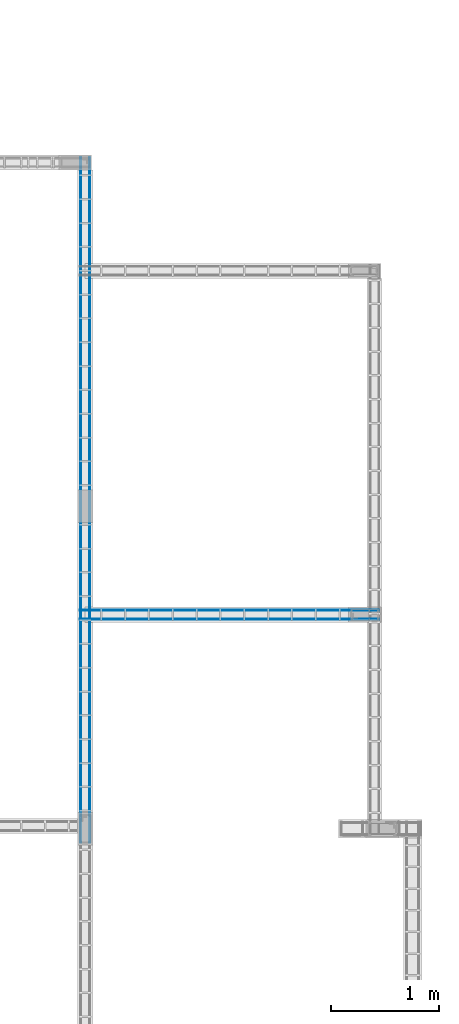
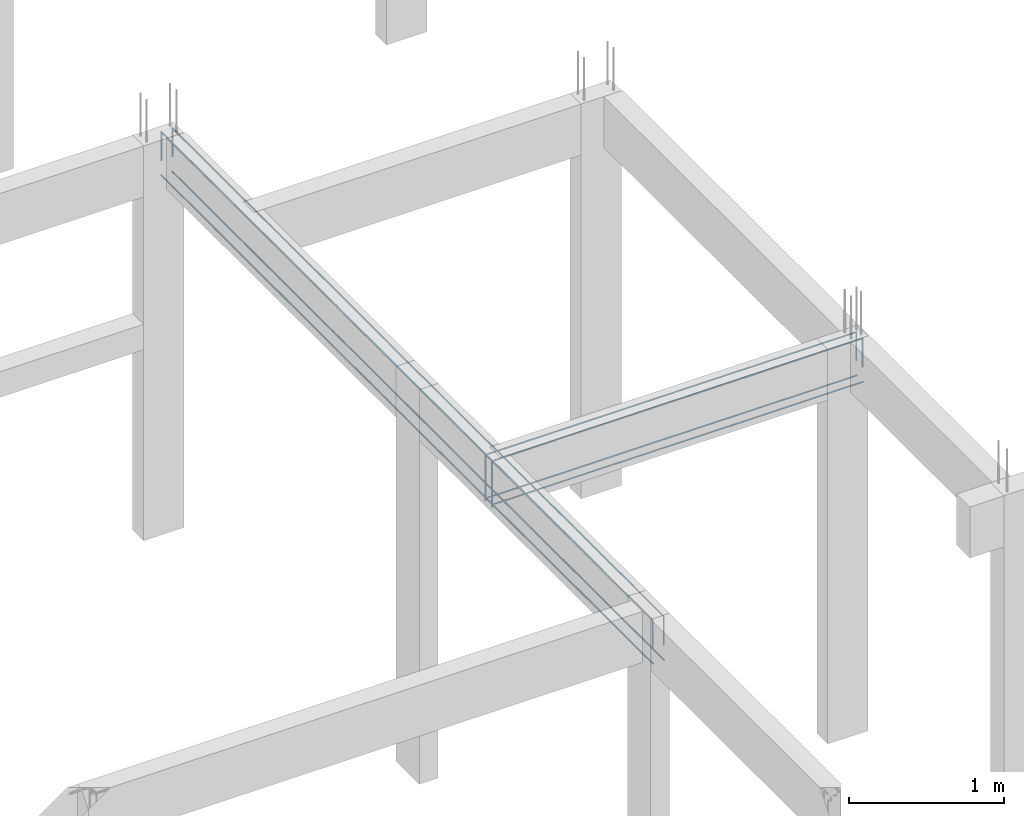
# One storey, part 128 of 236: 8 reinforcing bars.
"""IFC4 building model written with IfcOpenShell, lengths in centimetres."""

from ifc_helpers import new_model, entity, si_unit, derived_unit, frame, origin_with_axes, place, context, project, spatial, element, save


model = new_model("IFC4")

# Units and contexts
model_context = context("Model", 3, precision=1e-05, world=origin_with_axes(), identifier="Body")
ifc_project = project(units=[si_unit("LENGTHUNIT", "METRE", prefix="CENTI"), si_unit("VOLUMEUNIT", "CUBIC_METRE"), si_unit("AREAUNIT", "SQUARE_METRE"), si_unit("POWERUNIT", "WATT"), si_unit("LUMINOUSFLUXUNIT", "LUMEN"), si_unit("ELECTRICCURRENTUNIT", "AMPERE"), si_unit("PRESSUREUNIT", "PASCAL", prefix="KILO"), si_unit("MASSUNIT", "GRAM", prefix="KILO"), si_unit("PLANEANGLEUNIT", "RADIAN"), derived_unit("VOLUMETRICFLOWRATEUNIT", [(si_unit("LENGTHUNIT", "METRE"), 3), (si_unit("TIMEUNIT", "SECOND"), -1)])], contexts=[model_context])

# Site, building, storey
site_placement = place(None, frame((-4000.0, 0.0, 0.0), z_axis=(0.0, 0.0, 1.0), x_axis=(1.0, 0.0, 0.0)))
site = spatial("IfcSite", under=ifc_project, at=site_placement, Name="PADRÃO")
building_placement = place(site_placement, frame((0.0, 0.0, -14.0)))
building = spatial("IfcBuilding", under=site, at=building_placement, Name="CRECHE PRÉ-ESCOLA TIPO 2")
placement_1 = place(building_placement, origin_with_axes())
placement_2 = place(placement_1, frame((0.0, 0.0, 30.0), z_axis=(0.0, 0.0, 1.0), x_axis=(1.0, 0.0, 0.0)))
storey_placement = place(placement_2, frame((0.0, 0.0, 310.0), z_axis=(0.0, 0.0, 1.0), x_axis=(1.0, 0.0, 0.0)))
storey = spatial("IfcBuildingStorey", under=building, at=storey_placement, Name="TERREO", CompositionType="ELEMENT", Elevation=326.0)

# Reinforcing bars
for number, where, z_axis, x_axis, name in (
    (1, (1251.78, 3663.47, -36.7), (0.0, 0.0, 1.0), (1.0, 0.0, 0.0), "V207 - Longitudinal inferior"),
    (2, (1251.78, 3671.67, -36.7), (0.0, 0.0, 1.0), (1.0, 0.0, 0.0), "V207 - Longitudinal inferior"),
):
    element("IfcReinforcingBar", number, at=place(storey_placement, frame(where, z_axis=z_axis, x_axis=x_axis)), inside=storey, Name=name, BarLength=0.0, CrossSectionArea=5.0265482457e-05, NominalDiameter=0.8, PredefinedType="MAIN", context=model_context, shape_type="AdvancedSweptSolid", body=[
        entity("IfcSweptDiskSolid", entity("IfcCompositeCurve", [entity("IfcCompositeCurveSegment", "CONTINUOUS", True, entity("IfcPolyline", [entity("IfcCartesianPoint", [-138.06, 0.0, -0.4]), entity("IfcCartesianPoint", [138.06, 0.0, -0.4])]))], False), 0.4),
    ])
for number, where, z_axis, x_axis, name in (
    (3, (1251.78, 3671.67, -2.49624973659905), (0.0, 0.0, 1.0), (1.0, 0.0, 0.0), "V207 - Longitudinal superior"),
    (4, (1251.78, 3663.47, -2.49624973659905), (0.0, 0.0, 1.0), (1.0, 0.0, 0.0), "V207 - Longitudinal superior"),
):
    element("IfcReinforcingBar", number, at=place(storey_placement, frame(where, z_axis=z_axis, x_axis=x_axis)), inside=storey, Name=name, BarLength=0.0, CrossSectionArea=5.0265482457e-05, NominalDiameter=0.8, PredefinedType="MAIN", context=model_context, shape_type="AdvancedSweptSolid", body=[
        entity("IfcSweptDiskSolid", entity("IfcCompositeCurve", [entity("IfcCompositeCurveSegment", "CONTINUOUS", True, entity("IfcPolyline", [entity("IfcCartesianPoint", [-137.66, 0.0, -36.4037502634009]), entity("IfcCartesianPoint", [-137.66, 0.0, -0.403750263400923])])), entity("IfcCompositeCurveSegment", "CONTINUOUS", True, entity("IfcPolyline", [entity("IfcCartesianPoint", [-137.66, 0.0, -0.403750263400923]), entity("IfcCartesianPoint", [137.66, 0.0, -0.403750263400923])])), entity("IfcCompositeCurveSegment", "CONTINUOUS", True, entity("IfcPolyline", [entity("IfcCartesianPoint", [137.66, 0.0, -0.403750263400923]), entity("IfcCartesianPoint", [137.66, 0.0, -22.7014629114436])]))], False), 0.4),
    ])
for number, where, z_axis, x_axis, name in (
    (5, (1114.62, 3773.5, -36.7), (0.0, 0.0, 1.0), (1.0, 0.0, 0.0), "V280 - Longitudinal inferior"),
    (6, (1122.82, 3773.5, -36.7), (0.0, 0.0, 1.0), (1.0, 0.0, 0.0), "V280 - Longitudinal inferior"),
):
    element("IfcReinforcingBar", number, at=place(storey_placement, frame(where, z_axis=z_axis, x_axis=x_axis)), inside=storey, Name=name, BarLength=0.0, CrossSectionArea=5.0265482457e-05, NominalDiameter=0.8, PredefinedType="MAIN", context=model_context, shape_type="AdvancedSweptSolid", body=[
        entity("IfcSweptDiskSolid", entity("IfcCompositeCurve", [entity("IfcCompositeCurveSegment", "CONTINUOUS", True, entity("IfcPolyline", [entity("IfcCartesianPoint", [0.0, -316.5, -0.4]), entity("IfcCartesianPoint", [0.0, 316.5, -0.4])]))], False), 0.4),
    ])
for number, where, z_axis, x_axis, name in (
    (7, (1114.62, 3773.5, -2.49624973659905), (0.0, 0.0, 1.0), (1.0, 0.0, 0.0), "V280 - Longitudinal superior"),
    (8, (1122.82, 3773.5, -2.49624973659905), (0.0, 0.0, 1.0), (1.0, 0.0, 0.0), "V280 - Longitudinal superior"),
):
    element("IfcReinforcingBar", number, at=place(storey_placement, frame(where, z_axis=z_axis, x_axis=x_axis)), inside=storey, Name=name, BarLength=0.0, CrossSectionArea=5.0265482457e-05, NominalDiameter=0.8, PredefinedType="MAIN", context=model_context, shape_type="AdvancedSweptSolid", body=[
        entity("IfcSweptDiskSolid", entity("IfcCompositeCurve", [entity("IfcCompositeCurveSegment", "CONTINUOUS", True, entity("IfcPolyline", [entity("IfcCartesianPoint", [0.0, -316.1, -22.7014629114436]), entity("IfcCartesianPoint", [0.0, -316.1, -0.403750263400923])])), entity("IfcCompositeCurveSegment", "CONTINUOUS", True, entity("IfcPolyline", [entity("IfcCartesianPoint", [0.0, -316.1, -0.403750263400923]), entity("IfcCartesianPoint", [0.0, 316.1, -0.403750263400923])])), entity("IfcCompositeCurveSegment", "CONTINUOUS", True, entity("IfcPolyline", [entity("IfcCartesianPoint", [0.0, 316.1, -0.403750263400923]), entity("IfcCartesianPoint", [0.0, 316.1, -22.7014629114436])]))], False), 0.4),
    ])

save(model, "model.ifc")
